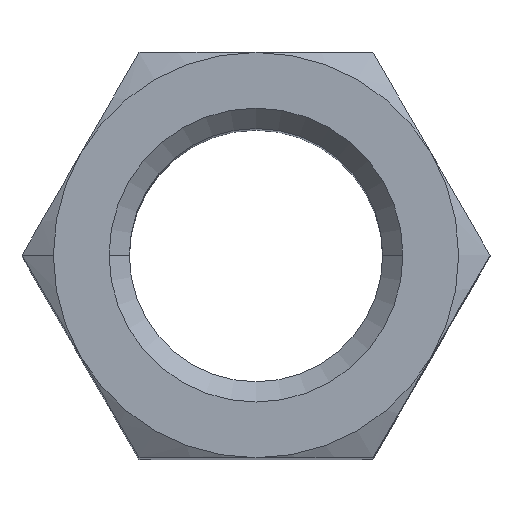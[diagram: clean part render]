
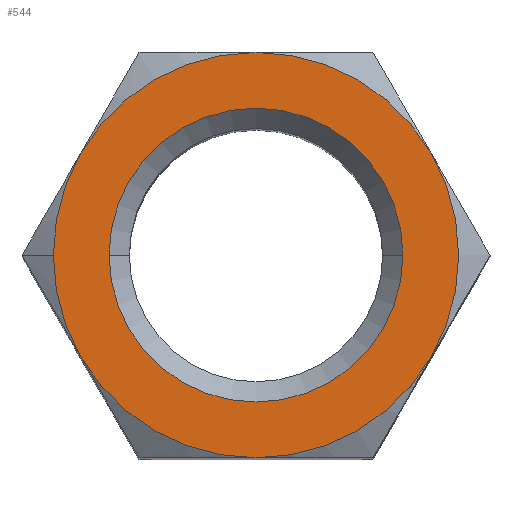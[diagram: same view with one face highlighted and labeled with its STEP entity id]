
A CAD part, top view. The second image highlights one B-rep face of the part: STEP entity #544.
In plain terms, the highlighted planar face has unit normal (0, 0, 1).
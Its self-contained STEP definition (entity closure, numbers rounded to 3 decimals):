
#14 = DIRECTION ( 'NONE',  ( 0., 0., 1. ) ) ;
#15 = CARTESIAN_POINT ( 'NONE',  ( -3.464, -2., 10. ) ) ;
#48 = AXIS2_PLACEMENT_3D ( 'NONE', #485, #214, #218 ) ;
#52 = ORIENTED_EDGE ( 'NONE', *, *, #495, .T. ) ;
#55 = EDGE_CURVE ( 'NONE', #732, #727, #151, .T. ) ;
#73 = CARTESIAN_POINT ( 'NONE',  ( 2.9, 0., 10. ) ) ;
#78 = DIRECTION ( 'NONE',  ( 0., 0., -1. ) ) ;
#109 = ORIENTED_EDGE ( 'NONE', *, *, #401, .T. ) ;
#121 = AXIS2_PLACEMENT_3D ( 'NONE', #352, #280, #484 ) ;
#127 = DIRECTION ( 'NONE',  ( 0., 0., -1. ) ) ;
#135 = CARTESIAN_POINT ( 'NONE',  ( 0., 0., 10. ) ) ;
#145 = CARTESIAN_POINT ( 'NONE',  ( -2.9, 0., 10. ) ) ;
#151 = CIRCLE ( 'NONE', #559, 2.9 ) ;
#191 = ORIENTED_EDGE ( 'NONE', *, *, #828, .T. ) ;
#203 = ORIENTED_EDGE ( 'NONE', *, *, #472, .T. ) ;
#207 = ORIENTED_EDGE ( 'NONE', *, *, #55, .T. ) ;
#209 = AXIS2_PLACEMENT_3D ( 'NONE', #309, #14, #478 ) ;
#214 = DIRECTION ( 'NONE',  ( 0., 0., 1. ) ) ;
#218 = DIRECTION ( 'NONE',  ( -1., 0., 0. ) ) ;
#226 = CARTESIAN_POINT ( 'NONE',  ( 3.464, 2., 10. ) ) ;
#242 = EDGE_CURVE ( 'NONE', #669, #243, #248, .T. ) ;
#243 = VERTEX_POINT ( 'NONE', #286 ) ;
#244 = CARTESIAN_POINT ( 'NONE',  ( 0., 0., 10. ) ) ;
#246 = VERTEX_POINT ( 'NONE', #610 ) ;
#248 = CIRCLE ( 'NONE', #301, 4. ) ;
#262 = DIRECTION ( 'NONE',  ( -1., 0., 0. ) ) ;
#280 = DIRECTION ( 'NONE',  ( 0., 0., 1. ) ) ;
#286 = CARTESIAN_POINT ( 'NONE',  ( 3.464, -2., 10. ) ) ;
#299 = VERTEX_POINT ( 'NONE', #15 ) ;
#301 = AXIS2_PLACEMENT_3D ( 'NONE', #691, #345, #483 ) ;
#309 = CARTESIAN_POINT ( 'NONE',  ( 0., 0., 10. ) ) ;
#323 = DIRECTION ( 'NONE',  ( 1., 0., 0. ) ) ;
#336 = CIRCLE ( 'NONE', #768, 2.9 ) ;
#338 = EDGE_LOOP ( 'NONE', ( #207, #397 ) ) ;
#345 = DIRECTION ( 'NONE',  ( 0., 0., 1. ) ) ;
#348 = DIRECTION ( 'NONE',  ( -1., 0., 0. ) ) ;
#352 = CARTESIAN_POINT ( 'NONE',  ( 0., 0., 10. ) ) ;
#354 = DIRECTION ( 'NONE',  ( -1., 0., 0. ) ) ;
#374 = AXIS2_PLACEMENT_3D ( 'NONE', #833, #696, #354 ) ;
#376 = CIRCLE ( 'NONE', #121, 4. ) ;
#378 = ORIENTED_EDGE ( 'NONE', *, *, #242, .T. ) ;
#384 = FACE_OUTER_BOUND ( 'NONE', #604, .T. ) ;
#389 = CIRCLE ( 'NONE', #374, 4. ) ;
#397 = ORIENTED_EDGE ( 'NONE', *, *, #611, .T. ) ;
#401 = EDGE_CURVE ( 'NONE', #299, #669, #389, .T. ) ;
#402 = VERTEX_POINT ( 'NONE', #628 ) ;
#433 = DIRECTION ( 'NONE',  ( -1., 0., 0. ) ) ;
#472 = EDGE_CURVE ( 'NONE', #499, #861, #854, .T. ) ;
#478 = DIRECTION ( 'NONE',  ( -1., 0., 0. ) ) ;
#480 = DIRECTION ( 'NONE',  ( 0., 0., 1. ) ) ;
#483 = DIRECTION ( 'NONE',  ( -1., 0., 0. ) ) ;
#484 = DIRECTION ( 'NONE',  ( -1., 0., 0. ) ) ;
#485 = CARTESIAN_POINT ( 'NONE',  ( 0., 0., 10. ) ) ;
#495 = EDGE_CURVE ( 'NONE', #246, #402, #581, .T. ) ;
#499 = VERTEX_POINT ( 'NONE', #226 ) ;
#507 = FACE_BOUND ( 'NONE', #338, .T. ) ;
#510 = EDGE_CURVE ( 'NONE', #246, #861, #875, .T. ) ;
#526 = CARTESIAN_POINT ( 'NONE',  ( 0., 0., 10. ) ) ;
#532 = DIRECTION ( 'NONE',  ( 0., 0., -1. ) ) ;
#544 = ADVANCED_FACE ( 'NONE', ( #507, #384 ), #658, .F. ) ;
#559 = AXIS2_PLACEMENT_3D ( 'NONE', #244, #849, #433 ) ;
#568 = CIRCLE ( 'NONE', #583, 4. ) ;
#581 = CIRCLE ( 'NONE', #209, 4. ) ;
#583 = AXIS2_PLACEMENT_3D ( 'NONE', #135, #480, #746 ) ;
#594 = ORIENTED_EDGE ( 'NONE', *, *, #510, .F. ) ;
#604 = EDGE_LOOP ( 'NONE', ( #52, #191, #109, #378, #638, #203, #594 ) ) ;
#610 = CARTESIAN_POINT ( 'NONE',  ( -3.464, 2., 10. ) ) ;
#611 = EDGE_CURVE ( 'NONE', #727, #732, #336, .T. ) ;
#627 = AXIS2_PLACEMENT_3D ( 'NONE', #748, #78, #348 ) ;
#628 = CARTESIAN_POINT ( 'NONE',  ( -4., 0., 10. ) ) ;
#638 = ORIENTED_EDGE ( 'NONE', *, *, #767, .T. ) ;
#641 = AXIS2_PLACEMENT_3D ( 'NONE', #789, #532, #323 ) ;
#658 = PLANE ( 'NONE',  #641 ) ;
#669 = VERTEX_POINT ( 'NONE', #719 ) ;
#691 = CARTESIAN_POINT ( 'NONE',  ( 0., 0., 10. ) ) ;
#696 = DIRECTION ( 'NONE',  ( 0., 0., 1. ) ) ;
#719 = CARTESIAN_POINT ( 'NONE',  ( 0., -4., 10. ) ) ;
#727 = VERTEX_POINT ( 'NONE', #145 ) ;
#732 = VERTEX_POINT ( 'NONE', #73 ) ;
#746 = DIRECTION ( 'NONE',  ( -1., 0., 0. ) ) ;
#748 = CARTESIAN_POINT ( 'NONE',  ( 0., 0., 10. ) ) ;
#767 = EDGE_CURVE ( 'NONE', #243, #499, #376, .T. ) ;
#768 = AXIS2_PLACEMENT_3D ( 'NONE', #526, #127, #262 ) ;
#789 = CARTESIAN_POINT ( 'NONE',  ( 0., 0., 10. ) ) ;
#828 = EDGE_CURVE ( 'NONE', #402, #299, #568, .T. ) ;
#830 = CARTESIAN_POINT ( 'NONE',  ( 0., 4., 10. ) ) ;
#833 = CARTESIAN_POINT ( 'NONE',  ( 0., 0., 10. ) ) ;
#849 = DIRECTION ( 'NONE',  ( 0., 0., -1. ) ) ;
#854 = CIRCLE ( 'NONE', #48, 4. ) ;
#861 = VERTEX_POINT ( 'NONE', #830 ) ;
#875 = CIRCLE ( 'NONE', #627, 4. ) ;
